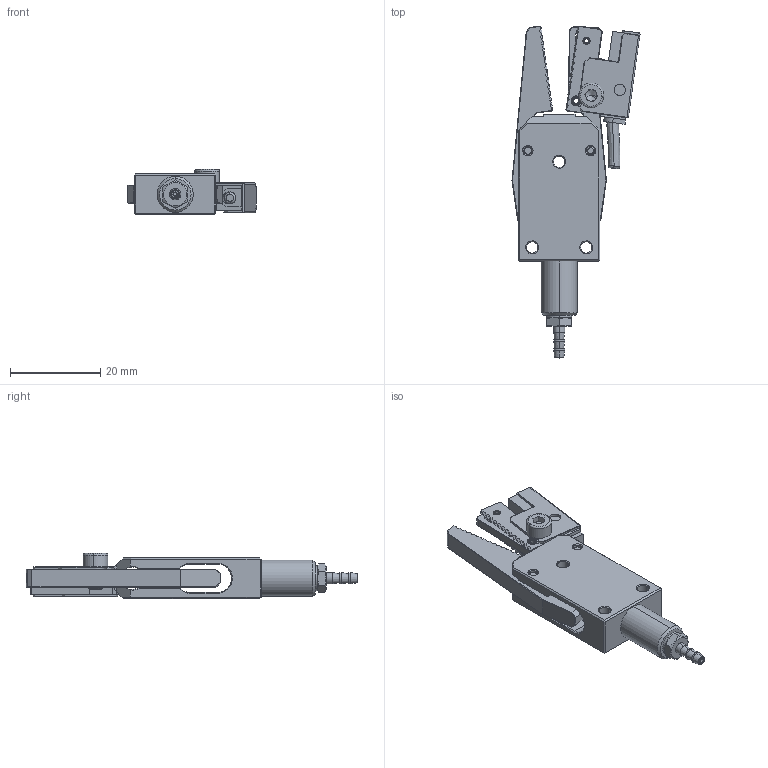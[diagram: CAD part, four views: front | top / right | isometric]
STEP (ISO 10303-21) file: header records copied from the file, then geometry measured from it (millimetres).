
FILE_DESCRIPTION (( 'STEP AP214' ), '1' );
FILE_NAME ('GRS08-CP.STEP', '2019-11-12T01:55:34', ( '微软用户' ), ( '微软中国' ), 'SwSTEP 2.0', 'SolidWorks 2016', '' );
FILE_SCHEMA (( 'AUTOMOTIVE_DESIGN' ));
Length unit declared in the file: millimetre
Products named in the file (1): GRS08-CP
Bounding box: 28.38 x 73.59 x 10 mm (x, y, z)
Volume: 6118.3 mm3; surface area: 7349.3 mm2
Topology: 13 solids, 13 shells, 973 faces, 2512 edges, 1562 vertices
Faces by surface type: plane 523, cone 185, cylinder 135, bspline 118, torus 12
Entity records: 46888 total; most frequent: CARTESIAN_POINT 12956, ORIENTED_EDGE 5012, DIRECTION 4451, EDGE_CURVE 2506, LINE 1733, VECTOR 1733, VERTEX_POINT 1562, AXIS2_PLACEMENT_3D 1359
